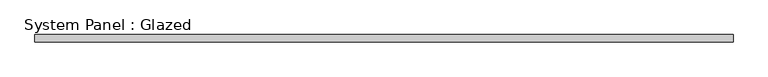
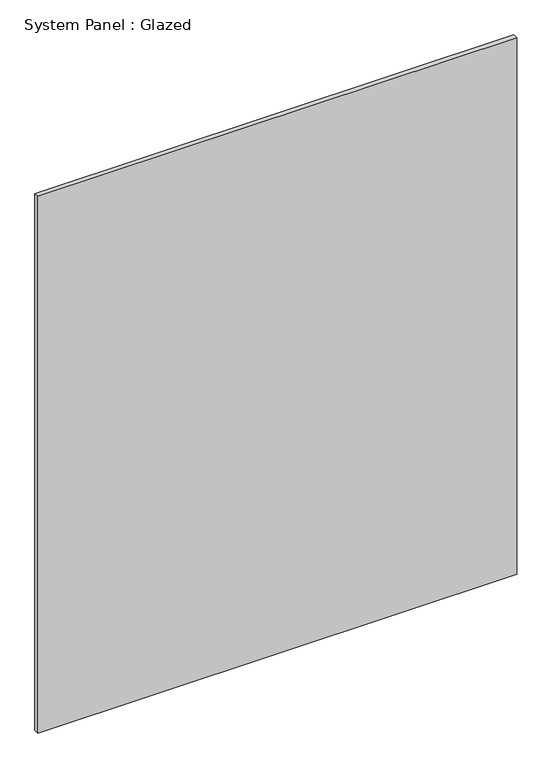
"""IFC4 building model written with IfcOpenShell, lengths in millimetres: plate geometry, System Panel : Glazed."""

import ifcopenshell
import ifcopenshell.guid

model = None  # the IFC model being written
_history = None  # IfcOwnerHistory: only IFC2X3 demands one
_inside = {}  # id of a spatial element -> (the spatial element, [elements in it])
_under = {}  # id of a project, library or spatial element -> (it, [spatial elements below it])
_declared = {}  # id of a project -> (the project, [libraries it declares])
_typed = {}  # id of a type object -> (the type object, [elements of that type])
_made_of = {}  # id of a material, layer set ... -> (it, [elements and type objects made of it])


def new_model(schema):
    """Start an empty IFC model of exactly this schema.

    Asked for "IFC4X3", IfcOpenShell would pick the latest addendum, in which some entities
    have other attributes; the version numbers below select the first issue.
    IFC2X3 requires an IfcOwnerHistory on every rooted entity: one is made here for all.
    """
    global model, _history
    if schema == "IFC4X3":
        model = ifcopenshell.file(schema_version=(4, 3, 0, 0))
    else:
        model = ifcopenshell.file(schema=schema)
    _inside.clear()
    _under.clear()
    _declared.clear()
    _typed.clear()
    _made_of.clear()
    _history = None
    if model.schema == "IFC2X3":
        org = make("IfcOrganization", Name="unknown")
        user = make(
            "IfcPersonAndOrganization",
            ThePerson=make("IfcPerson", FamilyName="unknown"),
            TheOrganization=org,
        )
        app = make(
            "IfcApplication",
            ApplicationDeveloper=org,
            Version="unknown",
            ApplicationFullName="unknown",
            ApplicationIdentifier="unknown",
        )
        _history = make(
            "IfcOwnerHistory",
            OwningUser=user,
            OwningApplication=app,
            ChangeAction="ADDED",
            CreationDate=0,
        )
    return model


def make(cls, **values):
    """One entity of the class cls with the attributes given. An attribute that is None is left unset."""
    return model.create_entity(
        cls, **{name: value for name, value in values.items() if value is not None}
    )


def rooted(cls, **values):
    """An entity with a GlobalId (a new one), such as an element, a storey or a relation."""
    return make(cls, GlobalId=ifcopenshell.guid.new(), OwnerHistory=_history, **values)


def si_unit(unit_type, name, prefix=None):
    """IfcSIUnit, for example si_unit("LENGTHUNIT", "METRE", prefix="MILLI")."""
    return make("IfcSIUnit", UnitType=unit_type, Prefix=prefix, Name=name)


def assignment(units):
    """IfcUnitAssignment: the units of a project."""
    return None if units is None else make("IfcUnitAssignment", Units=units)


def point(xyz):
    """IfcCartesianPoint."""
    return None if xyz is None else make("IfcCartesianPoint", Coordinates=xyz)


def direction(xyz):
    """IfcDirection."""
    return None if xyz is None else make("IfcDirection", DirectionRatios=xyz)


def frame(location, z_axis=None, x_axis=None):
    """IfcAxis2Placement3D, a coordinate frame: its origin and axes. An axis left out is left unset."""
    return make(
        "IfcAxis2Placement3D",
        Location=point(location),
        Axis=direction(z_axis),
        RefDirection=direction(x_axis),
    )


def origin():
    """The frame at (0, 0, 0) with its axes left unset."""
    return frame((0.0, 0.0, 0.0))


def origin_with_axes():
    """The frame at (0, 0, 0) with the z axis (0, 0, 1) and the x axis (1, 0, 0) written out."""
    return frame((0.0, 0.0, 0.0), z_axis=(0.0, 0.0, 1.0), x_axis=(1.0, 0.0, 0.0))


def place(relative_to, where):
    """IfcLocalPlacement: puts the frame where relative to a parent placement (None: the world)."""
    return make(
        "IfcLocalPlacement", PlacementRelTo=relative_to, RelativePlacement=where
    )


def context(
    kind, dimensions, precision=None, world=None, true_north=None, identifier=None
):
    """IfcGeometricRepresentationContext, for example the 3D "Model" context."""
    return make(
        "IfcGeometricRepresentationContext",
        ContextIdentifier=identifier,
        ContextType=kind,
        CoordinateSpaceDimension=dimensions,
        Precision=precision,
        WorldCoordinateSystem=world,
        TrueNorth=true_north,
    )


def project(units=None, contexts=None):
    """IfcProject with its units and contexts."""
    return rooted(
        "IfcProject",
        Name="project",
        RepresentationContexts=contexts,
        UnitsInContext=assignment(units),
    )


def spatial(cls, under=None, at=None, **own):
    """A site, building, storey or space (cls), placed at a placement, below another one or the project."""
    s = rooted(cls, ObjectPlacement=at, **own)
    if under is not None:
        _under.setdefault(under.id(), (under, []))[1].append(s)
    return s


def polyline(points):
    """IfcPolyline through the points."""
    return make("IfcPolyline", Points=[point(p) for p in points])


def outline(outer, holes=None, kind="AREA"):
    """IfcArbitraryClosedProfileDef: a profile drawn as a closed curve; with holes, ...WithVoids."""
    if holes is None:
        return make("IfcArbitraryClosedProfileDef", ProfileType=kind, OuterCurve=outer)
    return make(
        "IfcArbitraryProfileDefWithVoids",
        ProfileType=kind,
        OuterCurve=outer,
        InnerCurves=holes,
    )


def extrude(swept, where, along, depth):
    """IfcExtrudedAreaSolid: the profile swept, set in the frame where, extruded along a direction by depth."""
    return make(
        "IfcExtrudedAreaSolid",
        SweptArea=swept,
        Position=where,
        ExtrudedDirection=direction(along),
        Depth=depth,
    )


def shape(context_of_items, identifier, shape_type, items):
    """IfcShapeRepresentation: the items that make up one representation, for example the "Body"."""
    return make(
        "IfcShapeRepresentation",
        ContextOfItems=context_of_items,
        RepresentationIdentifier=identifier,
        RepresentationType=shape_type,
        Items=items,
    )


def source(mapping_origin, context_of_items, identifier, shape_type, items):
    """IfcRepresentationMap: a shape defined once, which mapped items show again and again."""
    return make(
        "IfcRepresentationMap",
        MappingOrigin=mapping_origin,
        MappedRepresentation=shape(context_of_items, identifier, shape_type, items),
    )


def transform(
    local_origin,
    x_axis=None,
    y_axis=None,
    z_axis=None,
    scale=None,
    scale2=None,
    scale3=None,
    uniform=True,
):
    """IfcCartesianTransformationOperator3D, or its non-uniform kind. x_axis, y_axis, z_axis: its Axis1, 2, 3."""
    if uniform:
        return make(
            "IfcCartesianTransformationOperator3D",
            Axis1=direction(x_axis),
            Axis2=direction(y_axis),
            LocalOrigin=point(local_origin),
            Scale=scale,
            Axis3=direction(z_axis),
        )
    return make(
        "IfcCartesianTransformationOperator3DnonUniform",
        Axis1=direction(x_axis),
        Axis2=direction(y_axis),
        LocalOrigin=point(local_origin),
        Scale=scale,
        Axis3=direction(z_axis),
        Scale2=scale2,
        Scale3=scale3,
    )


def mapped(mapping_source, mapping_target):
    """IfcMappedItem: shows the shape of a source again, moved by a transform."""
    return make(
        "IfcMappedItem", MappingSource=mapping_source, MappingTarget=mapping_target
    )


def made_of(thing, what):
    """Note that an element or type object is made of a material, layer set ...; save() writes the relation."""
    if what is not None:
        _made_of.setdefault(what.id(), (what, []))[1].append(thing)
    return thing


def element(
    cls,
    number,
    at=None,
    inside=None,
    cuts=None,
    type_object=None,
    material=None,
    context=None,
    identifier="Body",
    shape_type=None,
    held_by="IfcProductDefinitionShape",
    body=None,
    shapes=None,
    **own,
):
    """One element of the class cls, such as IfcWall. Its Tag is "e" and its number.

    at: its placement. inside: the storey or other place that contains it. cuts: it is an
    opening in that element (IfcRelVoidsElement). A single representation is given by context,
    identifier, shape_type and body (its items); several are given by shapes. held_by: the class
    of the entity that holds the representations. save() writes the other relations.
    """
    e = rooted(cls, Tag="e%d" % number, ObjectPlacement=at, **own)
    if body is not None:
        shapes = [shape(context, identifier, shape_type, body)]
    if shapes is not None:
        e.Representation = make(held_by, Representations=shapes)
    if inside is not None:
        _inside.setdefault(inside.id(), (inside, []))[1].append(e)
    if cuts is not None:
        rooted(
            "IfcRelVoidsElement", RelatingBuildingElement=cuts, RelatedOpeningElement=e
        )
    if type_object is not None:
        _typed.setdefault(type_object.id(), (type_object, []))[1].append(e)
    return made_of(e, material)


def aggregate(whole, parts):
    """IfcRelAggregates: a whole, such as a stair, and the parts it consists of."""
    return rooted("IfcRelAggregates", RelatingObject=whole, RelatedObjects=parts)


def save(model, path):
    """Write the relations noted so far, then the file.

    IfcRelAggregates (storeys below a building ...), IfcRelContainedInSpatialStructure (elements
    in a storey), IfcRelDefinesByType, IfcRelAssociatesMaterial and IfcRelDeclares: one each for
    every whole, place, type object, material and project.
    """
    for whole, parts in _under.values():
        aggregate(whole, parts)
    for where, things in _inside.values():
        rooted(
            "IfcRelContainedInSpatialStructure",
            RelatedElements=things,
            RelatingStructure=where,
        )
    for kind, things in _typed.values():
        rooted("IfcRelDefinesByType", RelatedObjects=things, RelatingType=kind)
    for what, things in _made_of.values():
        rooted("IfcRelAssociatesMaterial", RelatedObjects=things, RelatingMaterial=what)
    for by, libraries in _declared.values():
        rooted("IfcRelDeclares", RelatingContext=by, RelatedDefinitions=libraries)
    model.write(path)


def system_panel_glazed_a2b5a2cd(model_context):
    return source(origin(), model_context, "Body", "SweptSolid", [
        extrude(outline(polyline([(1246.1875, 19.05), (-1246.1875, 19.05), (-1246.1875, 44.45), (1246.1875, 44.45), (1246.1875, 19.05)])), origin_with_axes(), (0.0, 0.0, 1.0), 2952.75),
    ])


if __name__ == "__main__":
    model = new_model("IFC4")
    model_context = context("Model", 3, world=origin())
    ifc_project = project(units=[si_unit("LENGTHUNIT", "METRE", prefix="MILLI")], contexts=[model_context])
    site = spatial("IfcSite", under=ifc_project)
    building = spatial("IfcBuilding", under=site)
    placement = place(None, origin())
    system_panel_glazed_shape = system_panel_glazed_a2b5a2cd(model_context)
    element("IfcPlate", 1, ObjectType="System Panel : Glazed", at=placement, inside=building, context=model_context, shape_type="MappedRepresentation", body=[
        mapped(system_panel_glazed_shape, transform((0.0, 0.0, 0.0), x_axis=(1.0, 0.0, 0.0), y_axis=(0.0, 1.0, 0.0), z_axis=(0.0, 0.0, 1.0))),
    ])
    save(model, "model.ifc")
